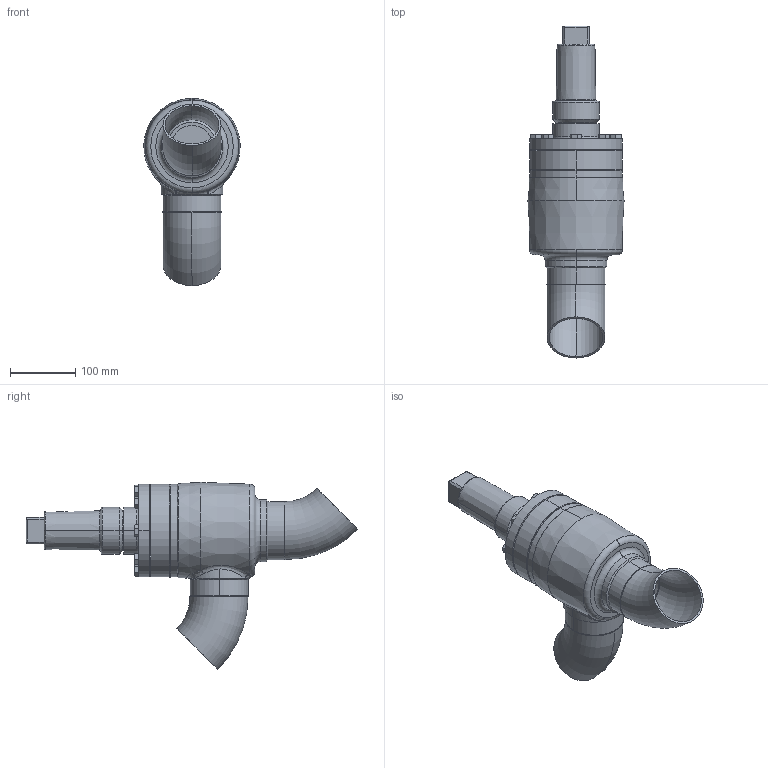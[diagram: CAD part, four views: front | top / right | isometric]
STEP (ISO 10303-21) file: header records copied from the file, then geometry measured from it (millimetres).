
FILE_DESCRIPTION (( 'STEP AP214' ), '1' );
FILE_NAME ('RVAK27300D18-DN080_R1_PS40.STEP', '2007-01-08T09:22:09', ( 'Herr Grams' ), ( 'AWP GmbH' ), 'SwSTEP 2.0', 'SolidWorks 2002296', '' );
FILE_SCHEMA (( 'AUTOMOTIVE_DESIGN' ));
Length unit declared in the file: millimetre
Products named in the file (13): RVAK27300D18-DN080_R1_PS40; Gehäuse-kpl16300-DN080_R1_Standard; Gehäuse-kpl16400-DN080_R1_Standard; bead-DN080-1_Standard; Gehäuse16400-DN080_Standard; Kopfstück16300-DN080_Standard; bead-DN080-3_Standard; Rohrbogen 45°_Rohrbogen-DN080-45°; bead-DN080-2_Standard; Kappe16402_DN080-100_Standard; RVA29300E18_Deck-Schr-DN80_Standard; Deckel29300E18-DN80_Standard; Sechskantschraube-DIN933_M10x 30
Assembly tree (20 placements, depth 4):
  RVAK27300D18-DN080_R1_PS40
    Gehäuse-kpl16300-DN080_R1_Standard
      bead-DN080-2_Standard
      Gehäuse-kpl16400-DN080_R1_Standard
        Kopfstück16300-DN080_Standard
        bead-DN080-1_Standard
        Gehäuse16400-DN080_Standard
      Rohrbogen 45°_Rohrbogen-DN080-45°  x2
      bead-DN080-3_Standard
    RVA29300E18_Deck-Schr-DN80_Standard
      Sechskantschraube-DIN933_M10x 30  x8
      Deckel29300E18-DN80_Standard
    Kappe16402_DN080-100_Standard
Bounding box: 147.49 x 509.04 x 286.93 mm (x, y, z)
Volume: 2298811 mm3; surface area: 452035.2 mm2
Topology: 17 solids, 17 shells, 376 faces, 804 edges, 485 vertices
Faces by surface type: cone 131, plane 111, cylinder 92, torus 22, bspline 20
Entity records: 18111 total; most frequent: CARTESIAN_POINT 13019, DIRECTION 953, ORIENTED_EDGE 856, EDGE_CURVE 428, AXIS2_PLACEMENT_3D 420, VERTEX_POINT 267, EDGE_LOOP 241, CIRCLE 219
